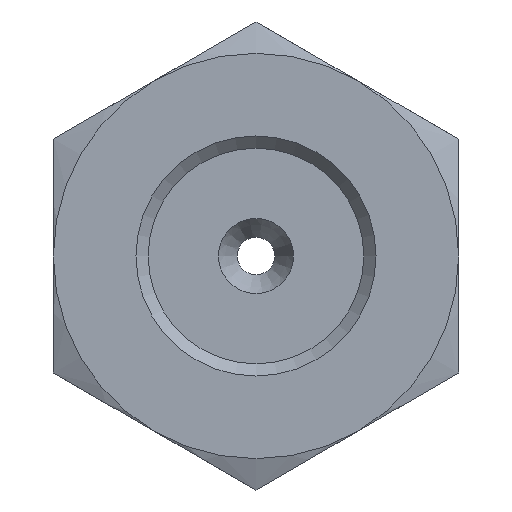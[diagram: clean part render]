
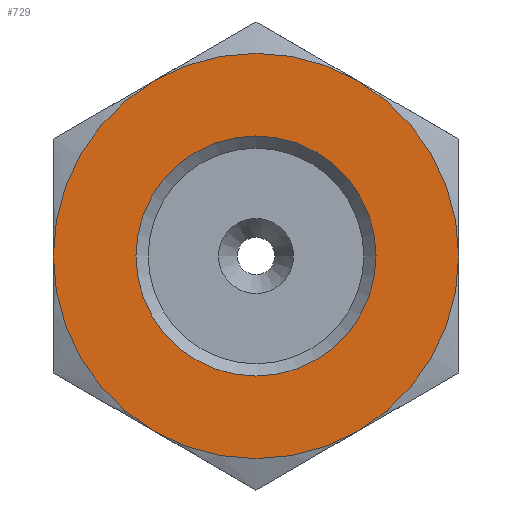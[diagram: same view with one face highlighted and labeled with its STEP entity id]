
A CAD part, left-side view. The second image highlights one B-rep face of the part: STEP entity #729.
In plain terms, the highlighted planar face has unit normal (-1, 0, 0).
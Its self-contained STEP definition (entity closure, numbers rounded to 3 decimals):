
#124=FACE_BOUND('',#183,.T.);
#132=FACE_OUTER_BOUND('',#182,.T.);
#182=EDGE_LOOP('',(#461,#462,#463,#464,#465,#466));
#183=EDGE_LOOP('',(#467));
#244=CIRCLE('',#809,13.5);
#245=CIRCLE('',#810,13.5);
#246=CIRCLE('',#811,13.5);
#247=CIRCLE('',#812,13.5);
#248=CIRCLE('',#813,13.5);
#249=CIRCLE('',#814,13.5);
#250=CIRCLE('',#815,8.);
#294=VERTEX_POINT('',#1138);
#295=VERTEX_POINT('',#1139);
#296=VERTEX_POINT('',#1141);
#297=VERTEX_POINT('',#1143);
#298=VERTEX_POINT('',#1145);
#299=VERTEX_POINT('',#1147);
#300=VERTEX_POINT('',#1150);
#357=EDGE_CURVE('',#294,#295,#244,.T.);
#358=EDGE_CURVE('',#296,#294,#245,.T.);
#359=EDGE_CURVE('',#297,#296,#246,.T.);
#360=EDGE_CURVE('',#298,#297,#247,.T.);
#361=EDGE_CURVE('',#299,#298,#248,.T.);
#362=EDGE_CURVE('',#295,#299,#249,.T.);
#363=EDGE_CURVE('',#300,#300,#250,.T.);
#461=ORIENTED_EDGE('',*,*,#357,.F.);
#462=ORIENTED_EDGE('',*,*,#358,.F.);
#463=ORIENTED_EDGE('',*,*,#359,.F.);
#464=ORIENTED_EDGE('',*,*,#360,.F.);
#465=ORIENTED_EDGE('',*,*,#361,.F.);
#466=ORIENTED_EDGE('',*,*,#362,.F.);
#467=ORIENTED_EDGE('',*,*,#363,.T.);
#663=PLANE('',#808);
#729=ADVANCED_FACE('',(#132,#124),#663,.T.);
#808=AXIS2_PLACEMENT_3D('',#1137,#917,#918);
#809=AXIS2_PLACEMENT_3D('',#1140,#919,#920);
#810=AXIS2_PLACEMENT_3D('',#1142,#921,#922);
#811=AXIS2_PLACEMENT_3D('',#1144,#923,#924);
#812=AXIS2_PLACEMENT_3D('',#1146,#925,#926);
#813=AXIS2_PLACEMENT_3D('',#1148,#927,#928);
#814=AXIS2_PLACEMENT_3D('',#1149,#929,#930);
#815=AXIS2_PLACEMENT_3D('',#1151,#931,#932);
#917=DIRECTION('center_axis',(-1.,0.,0.));
#918=DIRECTION('ref_axis',(0.,0.,1.));
#919=DIRECTION('center_axis',(1.,0.,0.));
#920=DIRECTION('ref_axis',(0.,0.,-1.));
#921=DIRECTION('center_axis',(1.,0.,0.));
#922=DIRECTION('ref_axis',(0.,0.,-1.));
#923=DIRECTION('center_axis',(1.,0.,0.));
#924=DIRECTION('ref_axis',(0.,0.,-1.));
#925=DIRECTION('center_axis',(1.,0.,0.));
#926=DIRECTION('ref_axis',(0.,0.,-1.));
#927=DIRECTION('center_axis',(1.,0.,0.));
#928=DIRECTION('ref_axis',(0.,0.,-1.));
#929=DIRECTION('center_axis',(1.,0.,0.));
#930=DIRECTION('ref_axis',(0.,0.,-1.));
#931=DIRECTION('center_axis',(1.,0.,0.));
#932=DIRECTION('ref_axis',(0.,0.,1.));
#1137=CARTESIAN_POINT('Origin',(-41.597,12.68,16.15));
#1138=CARTESIAN_POINT('',(-41.597,12.68,16.15));
#1139=CARTESIAN_POINT('',(-41.597,5.93,27.841));
#1140=CARTESIAN_POINT('Origin',(-41.597,-0.82,16.15));
#1141=CARTESIAN_POINT('',(-41.597,5.93,4.458));
#1142=CARTESIAN_POINT('Origin',(-41.597,-0.82,16.15));
#1143=CARTESIAN_POINT('',(-41.597,-7.57,4.458));
#1144=CARTESIAN_POINT('Origin',(-41.597,-0.82,16.15));
#1145=CARTESIAN_POINT('',(-41.597,-14.32,16.15));
#1146=CARTESIAN_POINT('Origin',(-41.597,-0.82,16.15));
#1147=CARTESIAN_POINT('',(-41.597,-7.57,27.841));
#1148=CARTESIAN_POINT('Origin',(-41.597,-0.82,16.15));
#1149=CARTESIAN_POINT('Origin',(-41.597,-0.82,16.15));
#1150=CARTESIAN_POINT('',(-41.597,-0.82,8.15));
#1151=CARTESIAN_POINT('Origin',(-41.597,-0.82,16.15));
